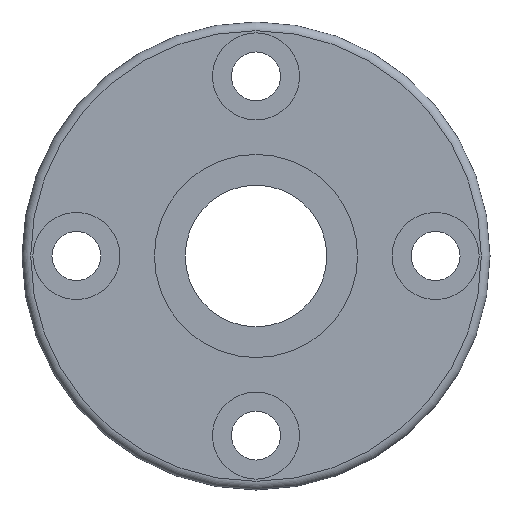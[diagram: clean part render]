
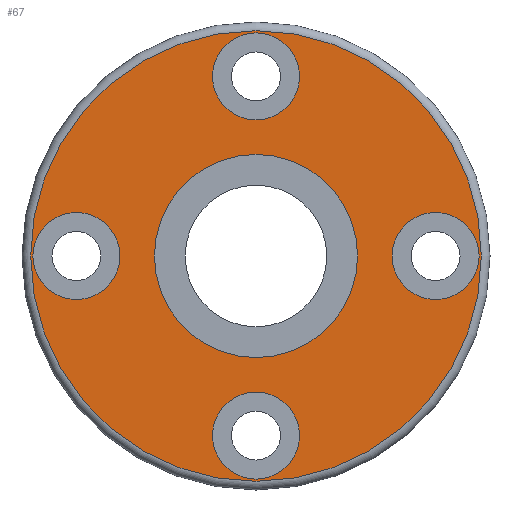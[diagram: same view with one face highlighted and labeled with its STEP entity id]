
A CAD part, left-side view. The second image highlights one B-rep face of the part: STEP entity #67.
In plain terms, the highlighted planar face has unit normal (-1, 0, 0).
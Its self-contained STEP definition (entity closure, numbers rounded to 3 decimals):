
#67 = ADVANCED_FACE( '', ( #154, #155, #156, #157, #158, #159 ), #160, .T. );
#154 = FACE_BOUND( '', #277, .T. );
#155 = FACE_BOUND( '', #278, .T. );
#156 = FACE_BOUND( '', #279, .T. );
#157 = FACE_BOUND( '', #280, .T. );
#158 = FACE_BOUND( '', #281, .T. );
#159 = FACE_OUTER_BOUND( '', #282, .T. );
#160 = PLANE( '', #283 );
#277 = EDGE_LOOP( '', ( #410 ) );
#278 = EDGE_LOOP( '', ( #411 ) );
#279 = EDGE_LOOP( '', ( #412 ) );
#280 = EDGE_LOOP( '', ( #413 ) );
#281 = EDGE_LOOP( '', ( #414 ) );
#282 = EDGE_LOOP( '', ( #415 ) );
#283 = AXIS2_PLACEMENT_3D( '', #416, #417, #418 );
#410 = ORIENTED_EDGE( '', *, *, #554, .T. );
#411 = ORIENTED_EDGE( '', *, *, #555, .T. );
#412 = ORIENTED_EDGE( '', *, *, #544, .T. );
#413 = ORIENTED_EDGE( '', *, *, #556, .T. );
#414 = ORIENTED_EDGE( '', *, *, #557, .F. );
#415 = ORIENTED_EDGE( '', *, *, #558, .T. );
#416 = CARTESIAN_POINT( '', ( 0., 15.315, 0. ) );
#417 = DIRECTION( '', ( -1., 0., 0. ) );
#418 = DIRECTION( '', ( 0., 1., 0. ) );
#544 = EDGE_CURVE( '', #610, #610, #611, .T. );
#554 = EDGE_CURVE( '', #626, #626, #627, .T. );
#555 = EDGE_CURVE( '', #628, #628, #629, .T. );
#556 = EDGE_CURVE( '', #630, #630, #631, .T. );
#557 = EDGE_CURVE( '', #632, #632, #633, .T. );
#558 = EDGE_CURVE( '', #634, #634, #635, .T. );
#610 = VERTEX_POINT( '', #699 );
#611 = CIRCLE( '', #700, 4. );
#626 = VERTEX_POINT( '', #715 );
#627 = CIRCLE( '', #716, 4. );
#628 = VERTEX_POINT( '', #717 );
#629 = CIRCLE( '', #718, 4. );
#630 = VERTEX_POINT( '', #719 );
#631 = CIRCLE( '', #720, 4. );
#632 = VERTEX_POINT( '', #721 );
#633 = CIRCLE( '', #722, 9.33 );
#634 = VERTEX_POINT( '', #723 );
#635 = CIRCLE( '', #724, 20.7 );
#699 = CARTESIAN_POINT( '', ( 0., -20.5, 0. ) );
#700 = AXIS2_PLACEMENT_3D( '', #791, #792, #793 );
#715 = CARTESIAN_POINT( '', ( 0., 0., -20.5 ) );
#716 = AXIS2_PLACEMENT_3D( '', #809, #810, #811 );
#717 = CARTESIAN_POINT( '', ( 0., 0., 20.5 ) );
#718 = AXIS2_PLACEMENT_3D( '', #812, #813, #814 );
#719 = CARTESIAN_POINT( '', ( 0., 20.5, 0. ) );
#720 = AXIS2_PLACEMENT_3D( '', #815, #816, #817 );
#721 = CARTESIAN_POINT( '', ( 0., 9.33, 0. ) );
#722 = AXIS2_PLACEMENT_3D( '', #818, #819, #820 );
#723 = CARTESIAN_POINT( '', ( 0., 20.7, 0. ) );
#724 = AXIS2_PLACEMENT_3D( '', #821, #822, #823 );
#791 = CARTESIAN_POINT( '', ( 0., -16.5, 0. ) );
#792 = DIRECTION( '', ( 1., 0., 0. ) );
#793 = DIRECTION( '', ( 0., -1., 0. ) );
#809 = CARTESIAN_POINT( '', ( 0., 0., -16.5 ) );
#810 = DIRECTION( '', ( 1., 0., 0. ) );
#811 = DIRECTION( '', ( 0., 0., -1. ) );
#812 = CARTESIAN_POINT( '', ( 0., 0., 16.5 ) );
#813 = DIRECTION( '', ( 1., 0., 0. ) );
#814 = DIRECTION( '', ( 0., 0., 1. ) );
#815 = CARTESIAN_POINT( '', ( 0., 16.5, 0. ) );
#816 = DIRECTION( '', ( 1., 0., 0. ) );
#817 = DIRECTION( '', ( 0., 1., 0. ) );
#818 = CARTESIAN_POINT( '', ( 0., 0., 0. ) );
#819 = DIRECTION( '', ( -1., 0., 0. ) );
#820 = DIRECTION( '', ( 0., 1., 0. ) );
#821 = CARTESIAN_POINT( '', ( 0., 0., 0. ) );
#822 = DIRECTION( '', ( -1., 0., 0. ) );
#823 = DIRECTION( '', ( 0., 0., 1. ) );
